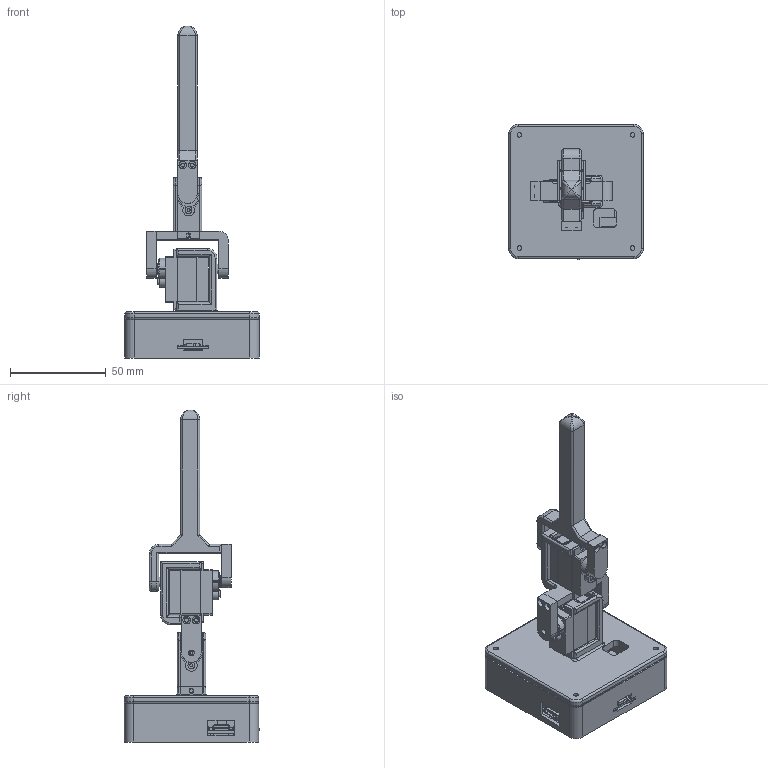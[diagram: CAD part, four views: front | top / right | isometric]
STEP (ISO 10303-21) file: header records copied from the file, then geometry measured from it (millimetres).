
FILE_DESCRIPTION(('Open CASCADE Model'),'2;1');
FILE_NAME('Open CASCADE Shape Model','2026-11-03T05:32:44',('Author'),( 'Open CASCADE'),'Open CASCADE STEP processor 7.9','Open CASCADE 7.9' ,'Unknown');
FILE_SCHEMA(('AUTOMOTIVE_DESIGN { 1 0 10303 214 1 1 1 1 }'));
Length unit declared in the file: millimetre
Products named in the file (14): under_base_pod_review; base_modified; electronics_cup; battery; controller_board; headers_pins_up; pololu_2810_master_switch; existing_connectors_envelope; middle_link_servo_horn_bracket; upper_servo; top_link_servo_horn_bracket; top_link_main_body; lower_servo; middle_link_main_body
Assembly tree (13 placements, depth 2):
  under_base_pod_review
    base_modified
    electronics_cup
    battery
    controller_board
    headers_pins_up
    pololu_2810_master_switch
    existing_connectors_envelope
    middle_link_servo_horn_bracket
    upper_servo
    top_link_servo_horn_bracket
    top_link_main_body
    lower_servo
    middle_link_main_body
Bounding box: 70 x 70.59 x 173 mm (x, y, z)
Volume: 87487.5 mm3; surface area: 57695 mm2
Topology: 30 solids, 34 shells, 2696 faces, 7178 edges, 4647 vertices
Faces by surface type: plane 1896, cylinder 549, bspline 158, torus 52, sphere 22, cone 19
Full cylindrical faces by diameter (mm): 0.3 x1, 0.4 x2, 0.5 x2, 0.508 x1, 0.6 x2, 0.75 x16, 0.9 x2, 1.016 x14, 1.524 x4, 1.6 x4, 2 x10, 2.4 x12, 2.5 x2, 3 x1, 3.6 x2, 3.9 x4, 5 x3, 5.2 x2, 6 x2
Entity records: 187933 total; most frequent: CARTESIAN_POINT 44762, DIRECTION 26010, LINE 17947, VECTOR 17947, ORIENTED_EDGE 14304, PCURVE 14304, DEFINITIONAL_REPRESENTATION 14304, EDGE_CURVE 7152
